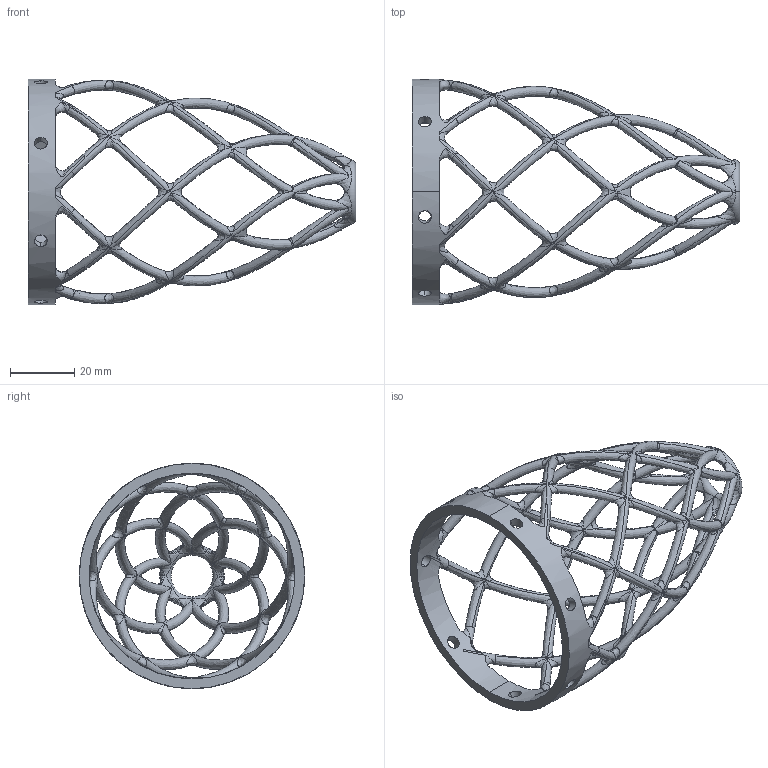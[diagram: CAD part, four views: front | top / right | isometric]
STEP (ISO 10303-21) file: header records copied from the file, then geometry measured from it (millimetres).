
FILE_DESCRIPTION((''),'2;1');
FILE_NAME('SIETKA2','2023-12-24T08:29:23',('pavol'),(''),'CREO PARAMETRIC BY PTC INC, 2018100','CREO PARAMETRIC BY PTC INC, 2018100','');
FILE_SCHEMA(('CONFIG_CONTROL_DESIGN'));
Products named in the file (1): SIETKA2
Bounding box: 101.91 x 70 x 70 mm (x, y, z)
Volume: 15668.3 mm3; surface area: 17571.5 mm2
Topology: 1 solids, 1 shells, 370 faces, 1076 edges, 646 vertices
Faces by surface type: bspline 326, plane 24, cylinder 18, torus 2
Entity records: 61306 total; most frequent: CARTESIAN_POINT 54150, ORIENTED_EDGE 2152, EDGE_CURVE 1076, B_SPLINE_CURVE_WITH_KNOTS 826, VERTEX_POINT 646, DIRECTION 570, EDGE_LOOP 396, FACE_OUTER_BOUND 370
